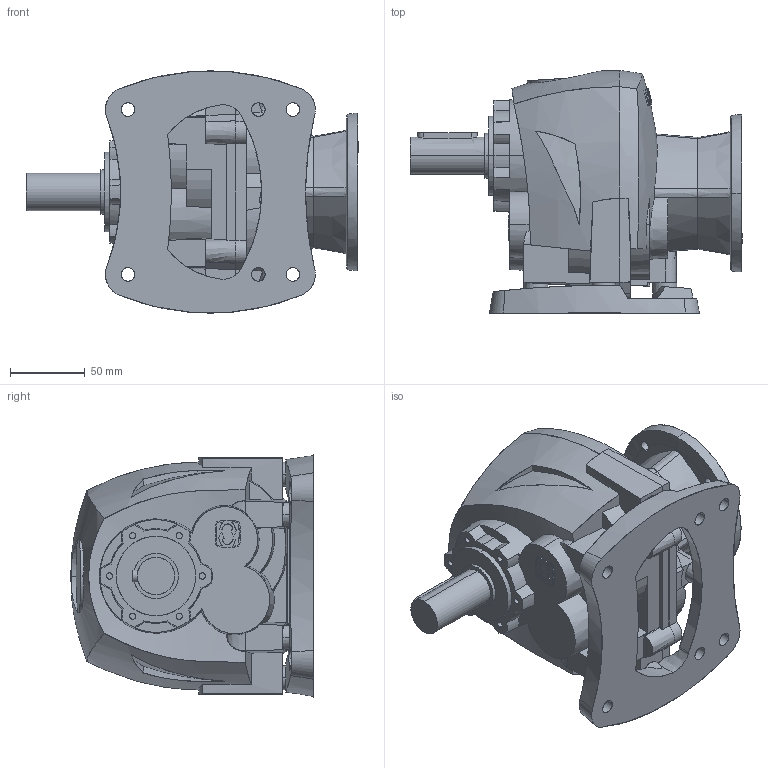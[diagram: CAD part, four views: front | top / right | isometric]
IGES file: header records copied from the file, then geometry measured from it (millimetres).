
Start section: SolidWorks IGES file using analytic representation for surfaces
Global section: file name: C:\Users\Tahir Momin\Desktop\RBA2_UNV_OFL_FSW_OPTION-5\RBA2_IFL71B4_FSW_OSH25L50.IGS; native system: SolidWorks 2012; preprocessor: SolidWorks 2012; author: Tahir Momin; date: 130207.150140; units: millimetre
Bounding box: 221.5 x 161.88 x 161.67 mm (x, y, z)
Surface area: 161257.6 mm2 (no closed solid volume)
Topology: 0 solids, 0 shells, 515 faces, 5987 edges, 5985 vertices
Faces by surface type: bspline 302, revolution 213
